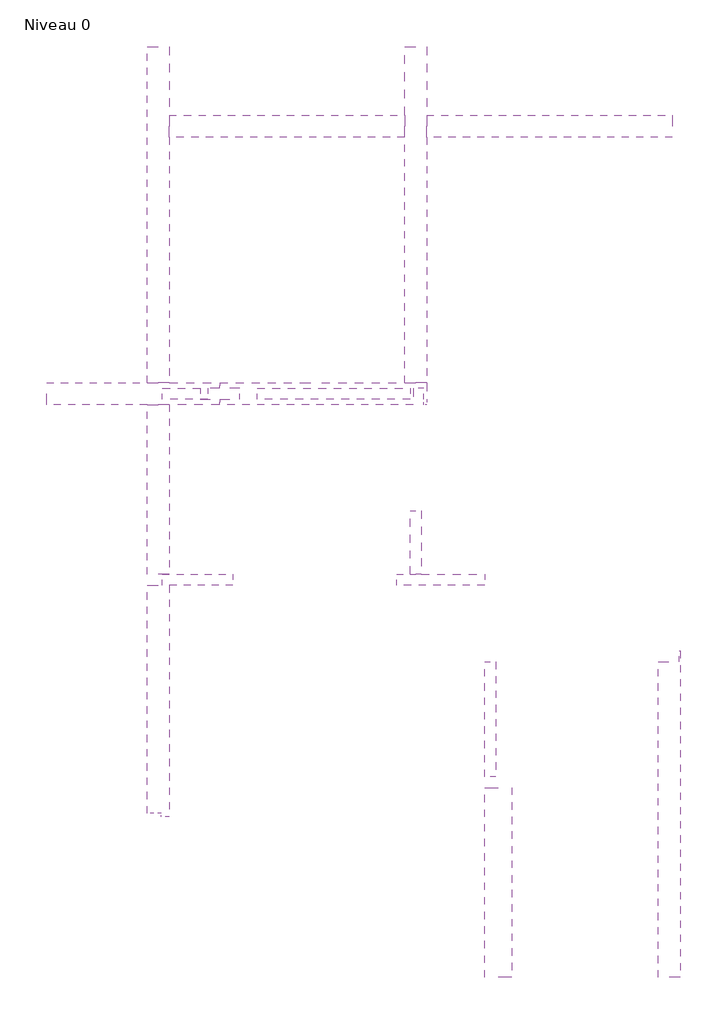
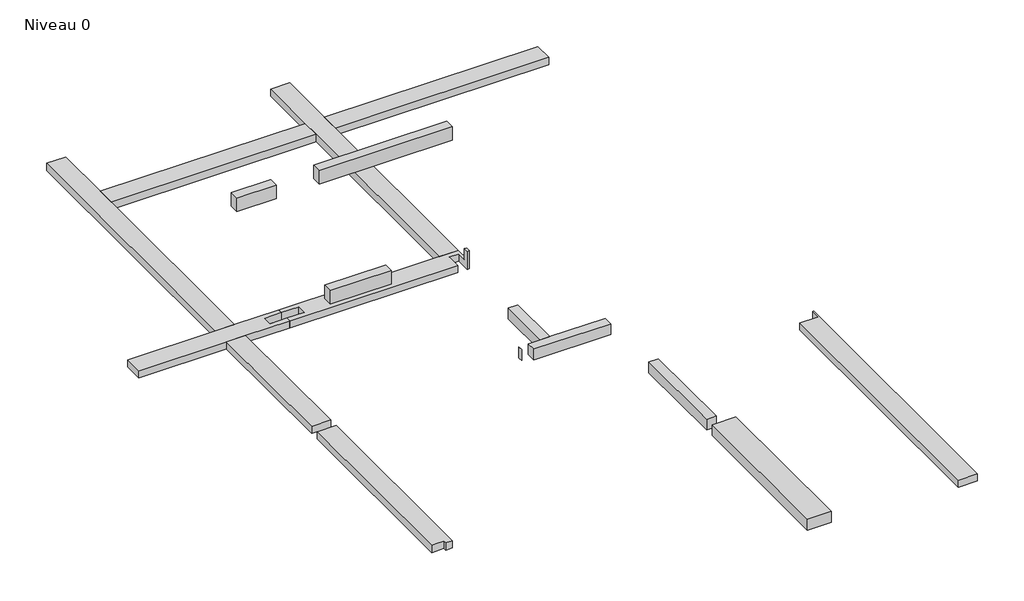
# One storey: 16 beams.
"""IFC4 building model written with IfcOpenShell, lengths in millimetres."""

from ifc_helpers import new_model, si_unit, frame, origin, place, context, project, spatial, polyline, outline, extrude, faceted_brep, element, save

model = new_model("IFC4")

# Units and contexts
model_context = context("Model", 3, world=origin())
ifc_project = project(units=[si_unit("LENGTHUNIT", "METRE", prefix="MILLI")], contexts=[model_context])

# Site, building, storey
site = spatial("IfcSite", under=ifc_project)
building = spatial("IfcBuilding", under=site)
storey = spatial("IfcBuildingStorey", under=building, Name="Niveau 0", Elevation=-70.0)

# Beams
placement = place(None, origin())
element("IfcBeam", 1, ObjectType="Béton - Poutre rectangulaire : 200 x 240", at=placement, inside=storey, context=model_context, shape_type="Brep", body=[
    faceted_brep([(-4257.691895, -124.0968949, 17480.0), (-4257.691895, -324.0968949, 17480.0), (-2647.6920341, -324.0968949, 17480.0), (-2647.6920341, -124.0968949, 17480.0), (-3807.6828669, -124.0968949, 17480.0), (-4007.6828669, -124.0968949, 17480.0), (-2647.6920341, -324.0968949, 17240.0), (-4257.691895, -324.0968949, 17240.0), (-4257.691895, -124.0968949, 17240.0), (-4007.6828669, -124.0968949, 17240.0), (-3807.6828669, -124.0968949, 17240.0), (-2647.6920341, -124.0968949, 17240.0)], [[[0, 1, 2, 3, 4, 5]], [[6, 2, 1, 7]], [[7, 8, 9, 10, 11, 6]], [[8, 0, 5, 4, 3, 11, 10, 9]], [[0, 8, 7, 1]], [[3, 2, 6, 11]]]),
    faceted_brep([(-4460.0848034, -124.0968949, 17480.0), (-4460.0848034, -124.0968949, 17240.0), (-4460.0848034, -224.0968949, 17240.0), (-4460.0848034, -224.0968949, 17480.0), (-4457.691895, -224.0968949, 17480.0), (-4457.691895, -224.0968949, 17240.0), (-4457.691895, -124.0968949, 17480.0), (-4457.691895, -124.0968949, 17240.0)], [[[0, 1, 2, 3]], [[4, 3, 2, 5]], [[6, 4, 5, 7]], [[0, 3, 4, 6]], [[2, 1, 7, 5]], [[1, 0, 6, 7]]]),
])
element("IfcBeam", 2, ObjectType="Béton - Poutre rectangulaire : 200 x 240", at=placement, inside=storey, context=model_context, shape_type="SweptSolid", body=[
    extrude(outline(polyline([(-4007.6828669, 1035.9031051), (-3807.6828669, 1035.9031051), (-3807.6828669, -124.0968949), (-4007.6828669, -124.0968949), (-4007.6828669, 1035.9031051)])), frame((0.0, 0.0, 17240.0), z_axis=(0.0, 0.0, 1.0), x_axis=(1.0, 0.0, 0.0)), (0.0, 0.0, 1.0), 240.0),
])
element("IfcBeam", 3, ObjectType="Béton - Poutre rectangulaire : 200 x 240", at=placement, inside=storey, context=model_context, shape_type="SweptSolid", body=[
    extrude(outline(polyline([(-2447.6920341, -3824.0968949), (-2647.6920341, -3824.0968949), (-2647.6920341, -1724.0968949), (-2447.6920341, -1724.0968949), (-2447.6920341, -3824.0968949)])), frame((0.0, 0.0, 17240.0), z_axis=(0.0, 0.0, 1.0), x_axis=(1.0, 0.0, 0.0)), (0.0, 0.0, 1.0), 240.0),
])
element("IfcBeam", 4, ObjectType="Béton - Poutre rectangulaire : 200 x 300", at=placement, inside=storey, context=model_context, shape_type="SweptSolid", body=[
    extrude(outline(polyline([(-6807.6920341, 3075.9031051), (-6807.6920341, 3275.9031051), (-4007.6828669, 3275.9031051), (-4007.6828669, 3075.9031051), (-6807.6920341, 3075.9031051)])), frame((0.0, 0.0, 19980.0), z_axis=(0.0, 0.0, 1.0), x_axis=(1.0, 0.0, 0.0)), (0.0, 0.0, 1.0), 300.0),
])
element("IfcBeam", 5, ObjectType="Béton - Poutre rectangulaire : 200 x 300", at=placement, inside=storey, context=model_context, shape_type="SweptSolid", body=[
    extrude(outline(polyline([(-7707.6920341, 3275.9031051), (-7707.6920341, 3075.9031051), (-8537.6920341, 3075.9031051), (-8537.6920341, 3275.9031051), (-7707.6920341, 3275.9031051)])), frame((0.0, 0.0, 19980.0), z_axis=(0.0, 0.0, 1.0), x_axis=(1.0, 0.0, 0.0)), (0.0, 0.0, 1.0), 300.0),
])
element("IfcBeam", 6, ObjectType="Béton - Poutre rectangulaire : 200 x 300", at=placement, inside=storey, context=model_context, shape_type="SweptSolid", body=[
    extrude(outline(polyline([(-7257.6920341, -124.0968949), (-7257.6920341, -324.0968949), (-8537.6920341, -324.0968949), (-8537.6920341, -124.0968949), (-7257.6920341, -124.0968949)])), frame((0.0, 0.0, 19980.0), z_axis=(0.0, 0.0, 1.0), x_axis=(1.0, 0.0, 0.0)), (0.0, 0.0, 1.0), 300.0),
])
element("IfcBeam", 7, ObjectType="Béton - Poutre rectangulaire : 400 x 400", at=placement, inside=storey, context=model_context, shape_type="Brep", body=[
    faceted_brep([(-3757.691895, 2975.9031051, 17480.0), (-3707.6828669, 2975.9031051, 17480.0), (-3707.6828669, 3075.9030834, 17480.0), (-3757.691895, 3075.9030834, 17480.0), (-3707.6828669, 2975.9031051, 17080.0), (-3757.691895, 2975.9031051, 17080.0), (-7127.691895, 3075.9031051, 17080.0), (-7127.691895, 3275.9031051, 17080.0), (-7487.691895, 3275.9031051, 17080.0), (-7487.691895, 3375.9031051, 17080.0), (-4107.6828669, 3375.9031051, 17080.0), (-3707.6828669, 3375.9031051, 17080.0), (-3757.691895, 3275.9031051, 17080.0), (-3957.691895, 3275.9031051, 17080.0), (-3957.691895, 2975.9031051, 17080.0), (-7487.691895, 2975.9031051, 17080.0), (-7487.691895, 3075.9031051, 17080.0), (-7487.691895, 3375.9031051, 17240.0), (-6027.691895, 3375.9031051, 17240.0), (-5627.691895, 3375.9031051, 17240.0), (-4107.6828669, 3375.9031051, 17240.0), (-3707.6828669, 3375.9031051, 17240.0), (-7127.691895, 3075.9031051, 17240.0), (-7127.691895, 3275.9031051, 17240.0), (-7487.691895, 3275.9031051, 17240.0), (-7487.691895, 3075.9031051, 17240.0), (-3957.691895, 3275.9031051, 17240.0), (-3957.691895, 2975.9031051, 17240.0), (-3757.691895, 3275.9031051, 17240.0), (-3757.691895, 3075.9030834, 17240.0), (-3707.6828669, 3075.9030834, 17240.0), (-7487.691895, 2975.9031051, 17240.0)], [[[0, 1, 2, 3]], [[4, 1, 0, 5]], [[6, 7, 8, 9, 10, 11, 4, 5, 12, 13, 14, 15, 16]], [[11, 10, 9, 17, 18, 19, 20, 21]], [[7, 6, 22, 23]], [[8, 7, 23, 24]], [[6, 16, 25, 22]], [[14, 13, 26, 27]], [[13, 12, 28, 26]], [[29, 30, 21, 20, 19, 18, 17, 24, 23, 22, 25, 31, 27, 26, 28]], [[9, 8, 24, 17]], [[1, 4, 11, 21, 30, 2]], [[16, 15, 31, 25]], [[5, 0, 3, 29, 28, 12]], [[15, 14, 27, 31]], [[30, 29, 3, 2]]]),
])
element("IfcBeam", 8, ObjectType="Béton - Poutre rectangulaire : 400 x 400", at=placement, inside=storey, context=model_context, shape_type="Brep", body=[
    faceted_brep([(-7487.691895, 3375.9031051, 17080.0), (-8417.6920341, 3375.9031051, 17080.0), (-8817.6920341, 3375.9031051, 17080.0), (-10657.691895, 3375.9031051, 17080.0), (-10657.691895, 3375.9031051, 17240.0), (-8817.6920341, 3375.9031051, 17240.0), (-8417.6920341, 3375.9031051, 17240.0), (-7487.691895, 3375.9031051, 17240.0), (-7487.691895, 3275.9031051, 17080.0), (-7847.691895, 3275.9031051, 17080.0), (-7847.691895, 3075.9031051, 17080.0), (-7487.691895, 3075.9031051, 17080.0), (-7487.691895, 2975.9031051, 17080.0), (-8417.6920341, 2975.9031051, 17080.0), (-8817.6920341, 2975.9031051, 17080.0), (-10657.691895, 2975.9031051, 17080.0), (-7487.691895, 2975.9031051, 17240.0), (-8417.6920341, 2975.9031051, 17240.0), (-8817.6920341, 2975.9031051, 17240.0), (-10657.691895, 2975.9031051, 17240.0), (-7487.691895, 3075.9031051, 17240.0), (-7487.691895, 3275.9031051, 17240.0), (-7847.691895, 3275.9031051, 17240.0), (-7847.691895, 3075.9031051, 17240.0)], [[[0, 1, 2, 3, 4, 5, 6, 7]], [[0, 8, 9, 10, 11, 12, 13, 14, 15, 3, 2, 1]], [[15, 14, 13, 12, 16, 17, 18, 19]], [[12, 11, 20, 16]], [[9, 8, 21, 22]], [[10, 9, 22, 23]], [[11, 10, 23, 20]], [[8, 0, 7, 21]], [[4, 3, 15, 19]], [[4, 19, 18, 17, 16, 20, 23, 22, 21, 7, 6, 5]]]),
])
element("IfcBeam", 9, ObjectType="Béton - Poutre rectangulaire : 400 x 400", at=placement, inside=storey, context=model_context, shape_type="Brep", body=[
    faceted_brep([(-8817.6920341, -324.0968949, 17240.0), (-8817.6920341, -324.0968949, 17080.0), (-8817.6920341, -4494.0969166, 17080.0), (-8817.6920341, -4494.0969166, 17240.0), (-8417.6920341, -324.0968949, 17080.0), (-8417.6920341, -4554.0969166, 17080.0), (-8557.691895, -4554.0969166, 17080.0), (-8557.691895, -4494.0969166, 17080.0), (-8417.6920341, -324.0968949, 17240.0), (-8417.6920341, -4554.0969166, 17240.0), (-8557.691895, -4554.0969166, 17240.0), (-8697.6920341, -4494.0969166, 17240.0), (-8557.691895, -4494.0969166, 17240.0)], [[[0, 1, 2, 3]], [[4, 5, 6, 7, 2, 1]], [[5, 4, 8, 9]], [[5, 9, 10, 6]], [[1, 0, 8, 4]], [[9, 8, 0, 3, 11, 12, 10]], [[7, 12, 11, 3, 2]], [[12, 7, 6, 10]]]),
])
element("IfcBeam", 10, ObjectType="Béton - Poutre rectangulaire : 400 x 400", at=placement, inside=storey, context=model_context, shape_type="SweptSolid", body=[
    extrude(outline(polyline([(-8417.6920341, -124.0968949), (-8817.6920341, -124.0968949), (-8817.6920341, 2975.9031051), (-8417.6920341, 2975.9031051), (-8417.6920341, -124.0968949)])), frame((0.0, 0.0, 17080.0), z_axis=(0.0, 0.0, 1.0), x_axis=(1.0, 0.0, 0.0)), (0.0, 0.0, 1.0), 160.0),
])
element("IfcBeam", 11, ObjectType="Béton - Poutre rectangulaire : 400 x 400", at=placement, inside=storey, context=model_context, shape_type="Brep", body=[
    faceted_brep([(-8417.6920341, 9525.9030834, 17080.0), (-8417.6920341, 9525.9030834, 17240.0), (-8417.6920341, 8265.9030834, 17240.0), (-8417.6920341, 7865.9030834, 17240.0), (-8417.6920341, 3375.9031051, 17240.0), (-8417.6920341, 3375.9031051, 17080.0), (-8417.6920341, 7865.9030834, 17080.0), (-8417.6920341, 8265.9030834, 17080.0), (-8817.6920341, 9525.9030834, 17080.0), (-8817.6920341, 3375.9031051, 17080.0), (-8817.6920341, 9525.9030834, 17240.0), (-8817.6920341, 3375.9031051, 17240.0)], [[[0, 1, 2, 3, 4, 5, 6, 7]], [[8, 0, 7, 6, 5, 9]], [[10, 8, 9, 11]], [[1, 0, 8, 10]], [[4, 11, 9, 5]], [[10, 11, 4, 3, 2, 1]]]),
])
element("IfcBeam", 12, ObjectType="Béton - Poutre rectangulaire : 400 x 400", at=placement, inside=storey, context=model_context, shape_type="Brep", body=[
    faceted_brep([(-3707.6828669, 9525.9030834, 17080.0), (-3707.6828669, 9525.9030834, 17240.0), (-3707.6828669, 8265.9030834, 17240.0), (-3707.6828669, 7865.9030834, 17240.0), (-3707.6828669, 3375.9031051, 17240.0), (-3707.6828669, 3375.9031051, 17080.0), (-3707.6828669, 7865.9030834, 17080.0), (-3707.6828669, 8265.9030834, 17080.0), (-4107.6828669, 9525.9030834, 17080.0), (-4107.6828669, 3375.9031051, 17080.0), (-4107.6828669, 7865.9030834, 17080.0), (-4107.6828669, 8265.9030834, 17080.0), (-4107.6828669, 9525.9030834, 17240.0), (-4107.6828669, 3375.9031051, 17240.0), (-4107.6828669, 7865.9030834, 17240.0), (-4107.6828669, 8265.9030834, 17240.0)], [[[0, 1, 2, 3, 4, 5, 6, 7]], [[8, 0, 7, 6, 5, 9, 10, 11]], [[12, 8, 11, 10, 9, 13, 14, 15]], [[1, 0, 8, 12]], [[1, 12, 15, 14, 13, 4, 3, 2]], [[5, 4, 13, 9]]]),
])
element("IfcBeam", 13, ObjectType="Béton - Poutre rectangulaire : 400 x 400", at=placement, inside=storey, context=model_context, shape_type="SweptSolid", body=[
    extrude(outline(polyline([(-4107.6828669, 8265.9030834), (-4107.6828669, 7865.9030834), (-8417.6920341, 7865.9030834), (-8417.6920341, 8265.9030834), (-4107.6828669, 8265.9030834)])), frame((0.0, 0.0, 17080.0), z_axis=(0.0, 0.0, 1.0), x_axis=(1.0, 0.0, 0.0)), (0.0, 0.0, 1.0), 160.0),
])
element("IfcBeam", 14, ObjectType="Béton - Poutre rectangulaire : 400 x 400", at=placement, inside=storey, context=model_context, shape_type="SweptSolid", body=[
    extrude(outline(polyline([(782.3079659, 8265.9030834), (782.3079659, 7865.9030834), (-3707.6828669, 7865.9030834), (-3707.6828669, 8265.9030834), (782.3079659, 8265.9030834)])), frame((0.0, 0.0, 17080.0), z_axis=(0.0, 0.0, 1.0), x_axis=(1.0, 0.0, 0.0)), (0.0, 0.0, 1.0), 160.0),
])
element("IfcBeam", 15, ObjectType="Béton - Poutre rectangulaire : 400 x 400", at=placement, inside=storey, context=model_context, shape_type="SweptSolid", body=[
    extrude(outline(polyline([(527.3079659, -1724.0968949), (912.3079659, -1724.0968949), (912.3079659, -1524.0968949), (927.3079659, -1524.0968949), (927.3079659, -7494.0969166), (527.3079659, -7494.0969166), (527.3079659, -1724.0968949)])), frame((0.0, 0.0, 17080.0), z_axis=(0.0, 0.0, 1.0), x_axis=(1.0, 0.0, 0.0)), (0.0, 0.0, 1.0), 160.0),
])
element("IfcBeam", 16, ObjectType="Béton - Poutre rectangulaire : 500 x 240", at=placement, inside=storey, context=model_context, shape_type="SweptSolid", body=[
    extrude(outline(polyline([(-2647.6920341, -4024.0968949), (-2147.6920341, -4024.0968949), (-2147.6920341, -7494.0969166), (-2647.6920341, -7494.0969166), (-2647.6920341, -4024.0968949)])), frame((0.0, 0.0, 17240.0), z_axis=(0.0, 0.0, 1.0), x_axis=(1.0, 0.0, 0.0)), (0.0, 0.0, 1.0), 240.0),
])

save(model, "model.ifc")
